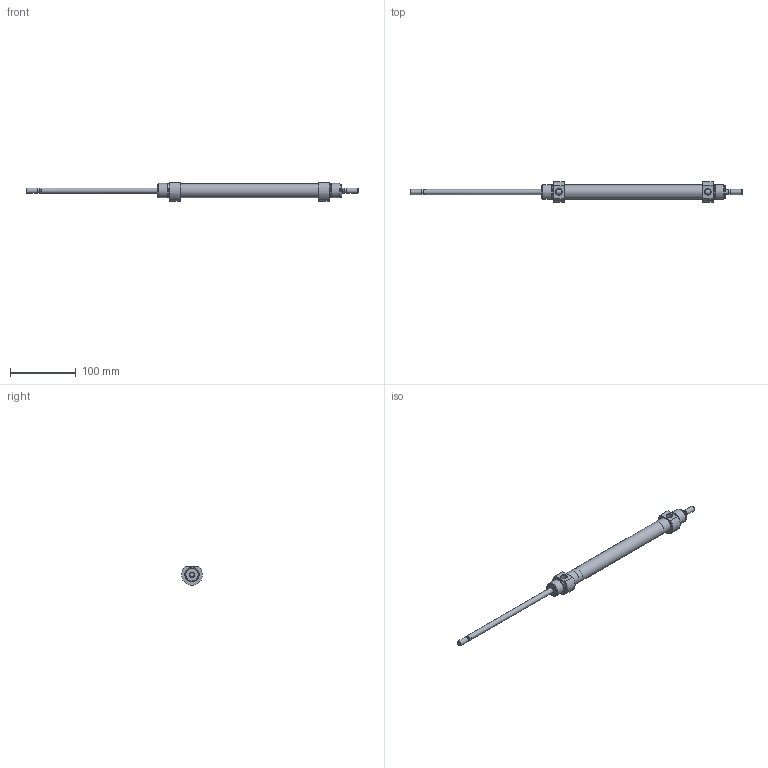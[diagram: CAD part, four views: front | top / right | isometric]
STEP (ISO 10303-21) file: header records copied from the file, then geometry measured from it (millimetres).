
FILE_DESCRIPTION( ( 'STEP AP203' ), '1' );
FILE_NAME( '//expscmdclustefs.cadenas.external/client_exchange/iodir/jobs/output/wkb68459419_no0/STEP/M101-020-0175--__0__2_03.stp', ' ', ( ' ' ), ( ' ' ), 'PSStep 15.0.47', 'PARTsolutions', ' ' );
FILE_SCHEMA( ( 'CONFIG_CONTROL_DESIGN' ) );
Length unit declared in the file: millimetre
Products named in the file (3): M101-020-0175-- [0]; HI_M101-020-0175---[0]-z; HI_M101-020-0175---[0]-k
Assembly tree (2 placements, depth 2):
  M101-020-0175-- [0]
    HI_M101-020-0175---[0]-z
    HI_M101-020-0175---[0]-k
Bounding box: 506 x 32 x 28 mm (x, y, z)
Volume: 79201.1 mm3; surface area: 50661.7 mm2
Topology: 2 solids, 2 shells, 65 faces, 129 edges, 80 vertices
Faces by surface type: plane 26, cylinder 23, cone 14, torus 2
Full cylindrical faces by diameter (mm): 6.466 x2, 8 x6, 8.566 x2, 20 x2, 20.16 x4, 21.6 x1, 22 x4
Entity records: 1702 total; most frequent: CARTESIAN_POINT 356, DIRECTION 280, ORIENTED_EDGE 184, AXIS2_PLACEMENT_3D 128, EDGE_LOOP 116, EDGE_CURVE 92, FACE_OUTER_BOUND 88, VERTEX_POINT 76
